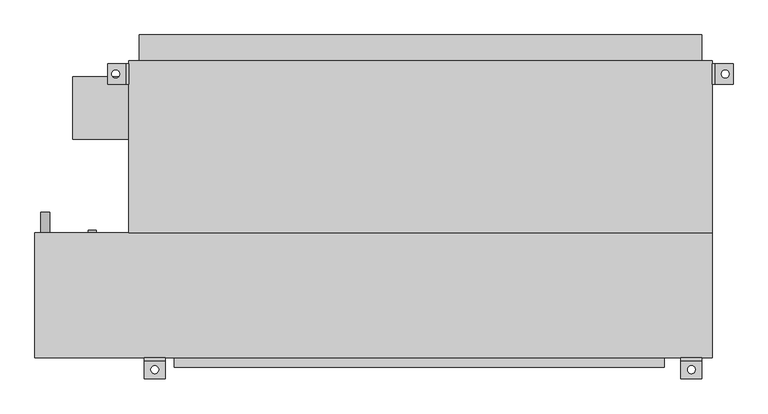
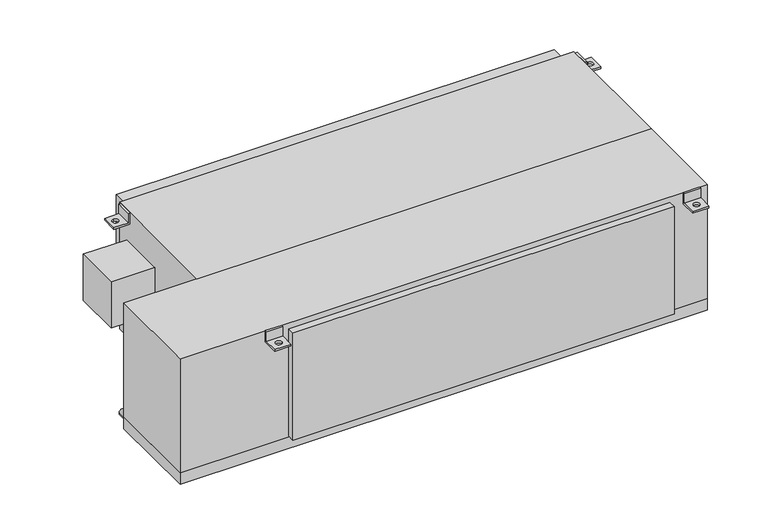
"""IFC4 building model written with IfcOpenShell, lengths in millimetres: proxy geometry, Concealed_High_Capacity_Horizontal_Fan_Coil_Unit_With_Plenum_-_42DCA_-_CARRIER_-_2-Pipe_Cool-EHeat_ValveEnclosure_LH_2022 : Size 20 - 277v/60Hz/1Ph - 6 Row 14.0kW."""

from ifc_helpers import new_model, si_unit, point, frame, frame_2d, origin, place, context, project, spatial, polyline, circle_curve, trimmed, segment, composite_curve, outline, extrude, source, transform, mapped, element, save
from ifc_brep_helpers import plane_surface, revolved_surface, advanced_brep


def mechanical_equipment_c8bb1e13(model_context):
    return source(origin(), model_context, "Body", "SolidModel", [
        advanced_brep(
        [(838.2, -390.525, 0.0), (838.2, -396.875, 0.0), (838.2, -396.875, -31.75), (838.2, -441.325, -31.75), (838.2, -441.325, -38.1), (838.2, -390.525, -38.1), (787.4, -390.525, 0.0), (787.4, -390.525, -38.1), (787.4, -441.325, -38.1), (787.4, -441.325, -31.75), (787.4, -396.875, -31.75), (787.4, -396.875, 0.0), (803.275, -419.1, -31.75), (822.325, -419.1, -31.75), (822.325, -419.1, -38.1), (803.275, -419.1, -38.1)],
        [
            (0, 1),
            (1, 2),
            (2, 3),
            (3, 4),
            (4, 5),
            (5, 0),
            (6, 7),
            (7, 8),
            (8, 9),
            (9, 10),
            (10, 11),
            (11, 6),
            (0, 6),
            (11, 1),
            (10, 2),
            (9, 3),
            (12, 13, circle_curve(frame((812.8, -419.1, -31.75), z_axis=(0.0, 0.0, -1.0), x_axis=(1.0, 0.0, 0.0)), 9.525)),
            (13, 12, circle_curve(frame((812.8, -419.1, -31.75), z_axis=(0.0, 0.0, -1.0), x_axis=(1.0, 0.0, 0.0)), 9.525)),
            (8, 4),
            (7, 5),
            (14, 15, circle_curve(frame((812.8, -419.1, -38.1), z_axis=(0.0, 0.0, 1.0), x_axis=(1.0, 0.0, 0.0)), 9.525)),
            (15, 14, circle_curve(frame((812.8, -419.1, -38.1), z_axis=(0.0, 0.0, 1.0), x_axis=(1.0, 0.0, 0.0)), 9.525)),
            (12, 15),
            (14, 13),
        ],
        [
            plane_surface(frame((838.2, -396.875, 0.0), z_axis=(1.0, 0.0, 0.0), x_axis=(0.0, -1.0, 0.0))),
            plane_surface(frame((787.4, -396.875, 0.0), z_axis=(-1.0, 0.0, 0.0), x_axis=(0.0, 1.0, 0.0))),
            plane_surface(frame((838.2, -390.525, 0.0), z_axis=(0.0, 0.0, 1.0), x_axis=(-1.0, 0.0, 0.0))),
            plane_surface(frame((838.2, -396.875, 0.0), z_axis=(0.0, -1.0, 0.0), x_axis=(-1.0, 0.0, 0.0))),
            plane_surface(frame((838.2, -396.875, -31.75), z_axis=(0.0, 0.0, 1.0), x_axis=(-1.0, 0.0, 0.0))),
            plane_surface(frame((838.2, -441.325, -31.75), z_axis=(0.0, -1.0, 0.0), x_axis=(-1.0, 0.0, 0.0))),
            plane_surface(frame((838.2, -441.325, -38.1), z_axis=(0.0, 0.0, -1.0), x_axis=(-1.0, 0.0, 0.0))),
            plane_surface(frame((838.2, -390.525, -38.1), z_axis=(0.0, 1.0, 0.0), x_axis=(-1.0, 0.0, 0.0))),
            revolved_surface(polyline([(822.3249999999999, -419.1, -38.1), (822.3249999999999, -419.1, -31.75)]), (812.8, -419.1, -31.75), (0.0, 0.0, -1.0)),
        ],
        [
            (0, [[1, 2, 3, 4, 5, 6]]),
            (1, [[7, 8, 9, 10, 11, 12]]),
            (2, [[-1, 13, -12, 14]]),
            (3, [[-2, -14, -11, 15]]),
            (4, [[-3, -15, -10, 16], [17, 18]]),
            (5, [[-4, -16, -9, 19]]),
            (6, [[-5, -19, -8, 20], [21, 22]]),
            (7, [[-6, -20, -7, -13]]),
            (8, [[23, -21, 24, -17]]),
            (8, [[-23, -18, -24, -22]]),
        ],
    ),
        advanced_brep(
        [(-469.9, -390.525, -38.1), (-469.9, -390.525, 0.0), (-469.9, -396.875, 0.0), (-469.9, -396.875, -31.75), (-469.9, -441.325, -31.75), (-469.9, -441.325, -38.1), (-520.7, -390.525, -38.1), (-520.7, -441.325, -38.1), (-520.7, -441.325, -31.75), (-520.7, -396.875, -31.75), (-520.7, -396.875, 0.0), (-520.7, -390.525, 0.0), (-504.825, -419.1, -31.75), (-485.775, -419.1, -31.75), (-485.775, -419.1, -38.1), (-504.825, -419.1, -38.1)],
        [
            (0, 1),
            (1, 2),
            (2, 3),
            (3, 4),
            (4, 5),
            (5, 0),
            (6, 7),
            (7, 8),
            (8, 9),
            (9, 10),
            (10, 11),
            (11, 6),
            (0, 6),
            (11, 1),
            (10, 2),
            (9, 3),
            (8, 4),
            (12, 13, circle_curve(frame((-495.3, -419.1, -31.75), z_axis=(0.0, 0.0, -1.0), x_axis=(1.0, 0.0, 0.0)), 9.525)),
            (13, 12, circle_curve(frame((-495.3, -419.1, -31.75), z_axis=(0.0, 0.0, -1.0), x_axis=(1.0, 0.0, 0.0)), 9.525)),
            (7, 5),
            (14, 15, circle_curve(frame((-495.3, -419.1, -38.1), z_axis=(0.0, 0.0, 1.0), x_axis=(1.0, 0.0, 0.0)), 9.525)),
            (15, 14, circle_curve(frame((-495.3, -419.1, -38.1), z_axis=(0.0, 0.0, 1.0), x_axis=(1.0, 0.0, 0.0)), 9.525)),
            (12, 15),
            (14, 13),
        ],
        [
            plane_surface(frame((-469.9, -390.525, -38.1), z_axis=(1.0, 0.0, 0.0), x_axis=(0.0, 0.0, 1.0))),
            plane_surface(frame((-520.7, -390.525, -38.1), z_axis=(-1.0, 0.0, 0.0), x_axis=(0.0, 0.0, -1.0))),
            plane_surface(frame((-469.9, -390.525, -38.1), z_axis=(0.0, 1.0, 0.0), x_axis=(-1.0, 0.0, 0.0))),
            plane_surface(frame((-469.9, -390.525, 0.0), z_axis=(0.0, 0.0, 1.0), x_axis=(-1.0, 0.0, 0.0))),
            plane_surface(frame((-469.9, -396.875, 0.0), z_axis=(0.0, -1.0, 0.0), x_axis=(-1.0, 0.0, 0.0))),
            plane_surface(frame((-469.9, -396.875, -31.75), z_axis=(0.0, 0.0, 1.0), x_axis=(-1.0, 0.0, 0.0))),
            plane_surface(frame((-469.9, -441.325, -31.75), z_axis=(0.0, -1.0, 0.0), x_axis=(-1.0, 0.0, 0.0))),
            plane_surface(frame((-469.9, -441.325, -38.1), z_axis=(0.0, 0.0, -1.0), x_axis=(-1.0, 0.0, 0.0))),
            revolved_surface(polyline([(-485.77500000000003, -419.1, -38.1), (-485.77500000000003, -419.1, -31.75)]), (-495.3, -419.1, -31.75), (0.0, 0.0, -1.0)),
        ],
        [
            (0, [[1, 2, 3, 4, 5, 6]]),
            (1, [[7, 8, 9, 10, 11, 12]]),
            (2, [[-1, 13, -12, 14]]),
            (3, [[-2, -14, -11, 15]]),
            (4, [[-3, -15, -10, 16]]),
            (5, [[-4, -16, -9, 17], [18, 19]]),
            (6, [[-5, -17, -8, 20]]),
            (7, [[-6, -20, -7, -13], [21, 22]]),
            (8, [[23, -21, 24, -18]]),
            (8, [[-23, -19, -24, -22]]),
        ],
    ),
        extrude(outline(composite_curve([segment(trimmed(circle_curve(frame_2d((-400.05, -762.0)), 11.1125), [point((-400.05, -773.1125))], [point((-400.05, -750.8875))], False, "CARTESIAN"), True, "CONTINUOUS"), segment(trimmed(circle_curve(frame_2d((-400.05, -762.0)), 11.1125), [point((-400.05, -750.8875))], [point((-400.05, -773.1125))], False, "CARTESIAN"), True, "CONTINUOUS")], self_intersect=False)), frame((0.0, -85.725, 0.0), z_axis=(0.0, 1.0, 0.0), x_axis=(0.0, 0.0, 1.0)), (0.0, 0.0, 1.0), 50.8),
        extrude(outline(composite_curve([segment(trimmed(circle_curve(frame_2d((-44.45, -647.7)), 9.525), [point((-44.45, -657.225))], [point((-44.45, -638.175))], False, "CARTESIAN"), True, "CONTINUOUS"), segment(trimmed(circle_curve(frame_2d((-44.45, -647.7)), 9.525), [point((-44.45, -638.175))], [point((-44.45, -657.225))], False, "CARTESIAN"), True, "CONTINUOUS")], self_intersect=False)), frame((0.0, -85.725, 0.0), z_axis=(0.0, 1.0, 0.0), x_axis=(0.0, 0.0, 1.0)), (0.0, 0.0, 1.0), 6.35),
        extrude(outline(composite_curve([segment(trimmed(circle_curve(frame_2d((-276.225, -647.7)), 9.525), [point((-276.225, -657.225))], [point((-276.225, -638.175))], False, "CARTESIAN"), True, "CONTINUOUS"), segment(trimmed(circle_curve(frame_2d((-276.225, -647.7)), 9.525), [point((-276.225, -638.175))], [point((-276.225, -657.225))], False, "CARTESIAN"), True, "CONTINUOUS")], self_intersect=False)), frame((0.0, -85.725, 0.0), z_axis=(0.0, 1.0, 0.0), x_axis=(0.0, 0.0, 1.0)), (0.0, 0.0, 1.0), 6.35),
        advanced_brep(
        [(-558.8, 327.025, -38.1), (-609.6, 327.025, -38.1), (-609.6, 327.025, -31.75), (-565.15, 327.025, -31.75), (-565.15, 327.025, 0.0), (-558.8, 327.025, 0.0), (-558.8, 276.225, -38.1), (-558.8, 276.225, 0.0), (-565.15, 276.225, 0.0), (-565.15, 276.225, -31.75), (-609.6, 276.225, -31.75), (-609.6, 276.225, -38.1), (-590.55, 292.1, -38.1), (-590.55, 311.15, -38.1), (-590.55, 311.15, -31.75), (-590.55, 292.1, -31.75)],
        [
            (0, 1),
            (1, 2),
            (2, 3),
            (3, 4),
            (4, 5),
            (5, 0),
            (6, 7),
            (7, 8),
            (8, 9),
            (9, 10),
            (10, 11),
            (11, 6),
            (0, 6),
            (11, 1),
            (12, 13, circle_curve(frame((-590.55, 301.625, -38.1), z_axis=(0.0, 0.0, 1.0), x_axis=(0.0, -1.0, 0.0)), 9.525)),
            (13, 12, circle_curve(frame((-590.55, 301.625, -38.1), z_axis=(0.0, 0.0, 1.0), x_axis=(0.0, -1.0, 0.0)), 9.525)),
            (10, 2),
            (9, 3),
            (14, 15, circle_curve(frame((-590.55, 301.625, -31.75), z_axis=(0.0, 0.0, -1.0), x_axis=(0.0, -1.0, 0.0)), 9.525)),
            (15, 14, circle_curve(frame((-590.55, 301.625, -31.75), z_axis=(0.0, 0.0, -1.0), x_axis=(0.0, -1.0, 0.0)), 9.525)),
            (8, 4),
            (7, 5),
            (14, 13),
            (12, 15),
        ],
        [
            plane_surface(frame((-558.8, 327.025, -38.1), z_axis=(0.0, 1.0, 0.0), x_axis=(-1.0, 0.0, 0.0))),
            plane_surface(frame((-558.8, 276.225, -38.1), z_axis=(0.0, -1.0, 0.0), x_axis=(1.0, 0.0, 0.0))),
            plane_surface(frame((-558.8, 327.025, -38.1), z_axis=(0.0, 0.0, -1.0), x_axis=(0.0, -1.0, 0.0))),
            plane_surface(frame((-609.6, 327.025, -38.1), z_axis=(-1.0, 0.0, 0.0), x_axis=(0.0, -1.0, 0.0))),
            plane_surface(frame((-609.6, 327.025, -31.75), z_axis=(0.0, 0.0, 1.0), x_axis=(0.0, -1.0, 0.0))),
            plane_surface(frame((-565.15, 327.025, -31.75), z_axis=(-1.0, 0.0, 0.0), x_axis=(0.0, -1.0, 0.0))),
            plane_surface(frame((-565.15, 327.025, 0.0), z_axis=(0.0, 0.0, 1.0), x_axis=(0.0, -1.0, 0.0))),
            plane_surface(frame((-558.8, 327.025, 0.0), z_axis=(1.0, 0.0, 0.0), x_axis=(0.0, -1.0, 0.0))),
            revolved_surface(polyline([(-590.55, 292.1, -38.1), (-590.55, 292.1, -31.75)]), (-590.55, 301.625, -31.75), (0.0, 0.0, -1.0)),
        ],
        [
            (0, [[1, 2, 3, 4, 5, 6]]),
            (1, [[7, 8, 9, 10, 11, 12]]),
            (2, [[-1, 13, -12, 14], [15, 16]]),
            (3, [[-2, -14, -11, 17]]),
            (4, [[-3, -17, -10, 18], [19, 20]]),
            (5, [[-4, -18, -9, 21]]),
            (6, [[-5, -21, -8, 22]]),
            (7, [[-6, -22, -7, -13]]),
            (8, [[23, -15, 24, -19]]),
            (8, [[-23, -20, -24, -16]]),
        ],
    ),
        advanced_brep(
        [(863.6, 327.025, -38.1), (863.6, 327.025, 0.0), (869.95, 327.025, 0.0), (869.95, 327.025, -31.75), (914.4, 327.025, -31.75), (914.4, 327.025, -38.1), (863.6, 276.225, -38.1), (914.4, 276.225, -38.1), (914.4, 276.225, -31.75), (869.95, 276.225, -31.75), (869.95, 276.225, 0.0), (863.6, 276.225, 0.0), (895.35, 311.15, -31.75), (895.35, 292.1, -31.75), (895.35, 292.1, -38.1), (895.35, 311.15, -38.1)],
        [
            (0, 1),
            (1, 2),
            (2, 3),
            (3, 4),
            (4, 5),
            (5, 0),
            (6, 7),
            (7, 8),
            (8, 9),
            (9, 10),
            (10, 11),
            (11, 6),
            (0, 6),
            (11, 1),
            (10, 2),
            (9, 3),
            (8, 4),
            (12, 13, circle_curve(frame((895.35, 301.625, -31.75), z_axis=(0.0, 0.0, -1.0), x_axis=(0.0, -1.0, 0.0)), 9.525)),
            (13, 12, circle_curve(frame((895.35, 301.625, -31.75), z_axis=(0.0, 0.0, -1.0), x_axis=(0.0, -1.0, 0.0)), 9.525)),
            (7, 5),
            (14, 15, circle_curve(frame((895.35, 301.625, -38.1), z_axis=(0.0, 0.0, 1.0), x_axis=(0.0, -1.0, 0.0)), 9.525)),
            (15, 14, circle_curve(frame((895.35, 301.625, -38.1), z_axis=(0.0, 0.0, 1.0), x_axis=(0.0, -1.0, 0.0)), 9.525)),
            (12, 15),
            (14, 13),
        ],
        [
            plane_surface(frame((-558.8, 327.025, -38.1), z_axis=(0.0, 1.0, 0.0), x_axis=(-1.0, 0.0, 0.0))),
            plane_surface(frame((-558.8, 276.225, -38.1), z_axis=(0.0, -1.0, 0.0), x_axis=(1.0, 0.0, 0.0))),
            plane_surface(frame((863.6, 327.025, -38.1), z_axis=(-1.0, 0.0, 0.0), x_axis=(0.0, -1.0, 0.0))),
            plane_surface(frame((863.6, 327.025, 0.0), z_axis=(0.0, 0.0, 1.0), x_axis=(0.0, -1.0, 0.0))),
            plane_surface(frame((869.95, 327.025, 0.0), z_axis=(1.0, 0.0, 0.0), x_axis=(0.0, -1.0, 0.0))),
            plane_surface(frame((869.95, 327.025, -31.75), z_axis=(0.0, 0.0, 1.0), x_axis=(0.0, -1.0, 0.0))),
            plane_surface(frame((914.4, 327.025, -31.75), z_axis=(1.0, 0.0, 0.0), x_axis=(0.0, -1.0, 0.0))),
            plane_surface(frame((914.4, 327.025, -38.1), z_axis=(0.0, 0.0, -1.0), x_axis=(0.0, -1.0, 0.0))),
            revolved_surface(polyline([(895.35, 292.1, -38.1), (895.35, 292.1, -31.75)]), (895.35, 301.625, -31.75), (0.0, 0.0, -1.0)),
        ],
        [
            (0, [[1, 2, 3, 4, 5, 6]]),
            (1, [[7, 8, 9, 10, 11, 12]]),
            (2, [[-1, 13, -12, 14]]),
            (3, [[-2, -14, -11, 15]]),
            (4, [[-3, -15, -10, 16]]),
            (5, [[-4, -16, -9, 17], [18, 19]]),
            (6, [[-5, -17, -8, 20]]),
            (7, [[-6, -20, -7, -13], [21, 22]]),
            (8, [[23, -21, 24, -18]]),
            (8, [[-23, -19, -24, -22]]),
        ],
    ),
        extrude(outline(polyline([(-533.4, 396.875), (838.2, 396.875), (838.2, 333.375), (-533.4, 333.375), (-533.4, 396.875)])), frame((0.0, 0.0, -377.825), z_axis=(0.0, 0.0, 1.0), x_axis=(1.0, 0.0, 0.0)), (0.0, 0.0, 1.0), 355.6),
        extrude(outline(polyline([(-695.325, 142.875), (-695.325, 295.275), (-558.8, 295.275), (-558.8, 142.875), (-695.325, 142.875)])), frame((0.0, 0.0, -254.0), z_axis=(0.0, 0.0, 1.0), x_axis=(1.0, 0.0, 0.0)), (0.0, 0.0, 1.0), 152.4),
        extrude(outline(polyline([(746.125, -412.75), (-447.675, -412.75), (-447.675, -390.525), (746.125, -390.525), (746.125, -412.75)])), frame((0.0, 0.0, -374.65), z_axis=(0.0, 0.0, 1.0), x_axis=(1.0, 0.0, 0.0)), (0.0, 0.0, 1.0), 355.6),
        extrude(outline(polyline([(863.6, -85.725), (-558.8, -85.725), (-558.8, 333.375), (863.6, 333.375), (863.6, -85.725)])), frame((0.0, 0.0, -419.1), z_axis=(0.0, 0.0, 1.0), x_axis=(1.0, 0.0, 0.0)), (0.0, 0.0, 1.0), 419.1),
        extrude(outline(polyline([(863.6, -85.725), (863.6, -390.525), (-787.4, -390.525), (-787.4, -85.725), (863.6, -85.725)])), frame((0.0, 0.0, -377.825), z_axis=(0.0, 0.0, 1.0), x_axis=(1.0, 0.0, 0.0)), (0.0, 0.0, 1.0), 377.825),
        extrude(outline(polyline([(863.6, -85.725), (863.6, -390.525), (-787.4, -390.525), (-787.4, -85.725), (863.6, -85.725)])), frame((0.0, 0.0, -415.925), z_axis=(0.0, 0.0, 1.0), x_axis=(1.0, 0.0, 0.0)), (0.0, 0.0, 1.0), 38.1),
    ])


if __name__ == "__main__":
    model = new_model("IFC4")
    model_context = context("Model", 3, world=origin())
    ifc_project = project(units=[si_unit("LENGTHUNIT", "METRE", prefix="MILLI")], contexts=[model_context])
    site = spatial("IfcSite", under=ifc_project)
    building = spatial("IfcBuilding", under=site)
    placement = place(None, origin())
    mechanical_equipment_shape = mechanical_equipment_c8bb1e13(model_context)
    element("IfcBuildingElementProxy", 1, Name="Concealed_High_Capacity_Horizontal_Fan_Coil_Unit_With_Plenum_-_42DCA_-_CARRIER_-_2-Pipe_Cool-EHeat_ValveEnclosure_LH_2022 : Size 20 - 277v/60Hz/1Ph - 6 Row 14.0kW", ObjectType="Concealed_High_Capacity_Horizontal_Fan_Coil_Unit_With_Plenum_-_42DCA_-_CARRIER_-_2-Pipe_Cool-EHeat_ValveEnclosure_LH_2022 : Size 20 - 277v/60Hz/1Ph - 6 Row 14.0kW", at=placement, inside=building, context=model_context, shape_type="MappedRepresentation", body=[
        mapped(mechanical_equipment_shape, transform((0.0, 0.0, 0.0), x_axis=(1.0, 0.0, 0.0), y_axis=(0.0, 1.0, 0.0), z_axis=(0.0, 0.0, 1.0))),
    ])
    save(model, "model.ifc")
